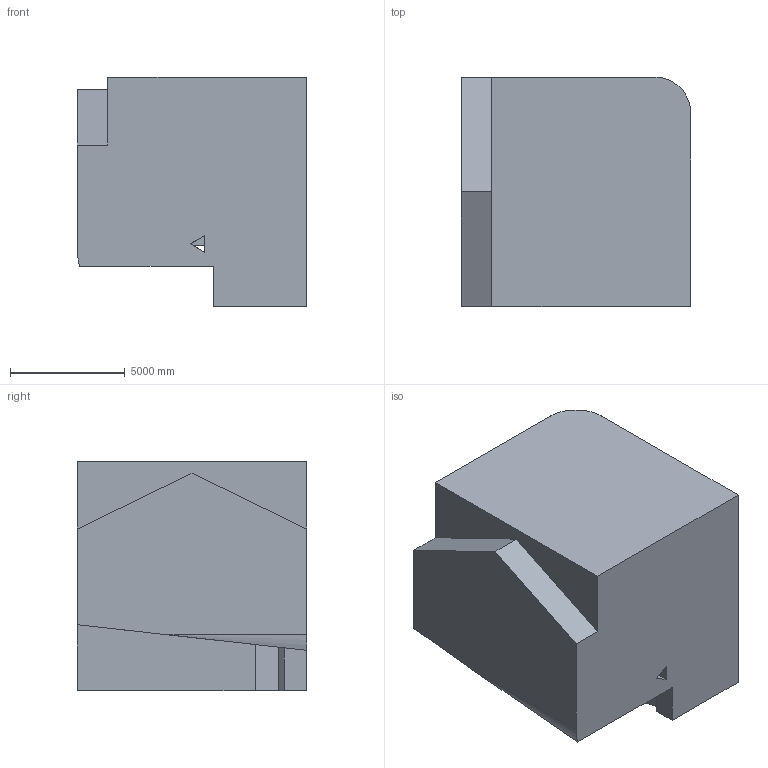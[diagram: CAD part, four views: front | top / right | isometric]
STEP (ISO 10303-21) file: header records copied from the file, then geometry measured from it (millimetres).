
FILE_DESCRIPTION (( 'STEP AP203' ), '1' );
FILE_NAME ('168.STEP', '2022-09-06T15:19:23', ( 'user' ), ( '' ), 'SwSTEP 2.0', 'SolidWorks 2021', '' );
FILE_SCHEMA (( 'CONFIG_CONTROL_DESIGN' ));
Length unit declared in the file: centimetre
Products named in the file (1): 168
Bounding box: 10000 x 10000 x 10000 mm (x, y, z)
Volume: 816255117903.3 mm3; surface area: 597527857.2 mm2
Topology: 1 solids, 1 shells, 32 faces, 93 edges, 62 vertices
Faces by surface type: plane 30, cylinder 2
Entity records: 1125 total; most frequent: CARTESIAN_POINT 191, ORIENTED_EDGE 186, DIRECTION 161, EDGE_CURVE 93, LINE 89, VECTOR 89, VERTEX_POINT 62, AXIS2_PLACEMENT_3D 36
